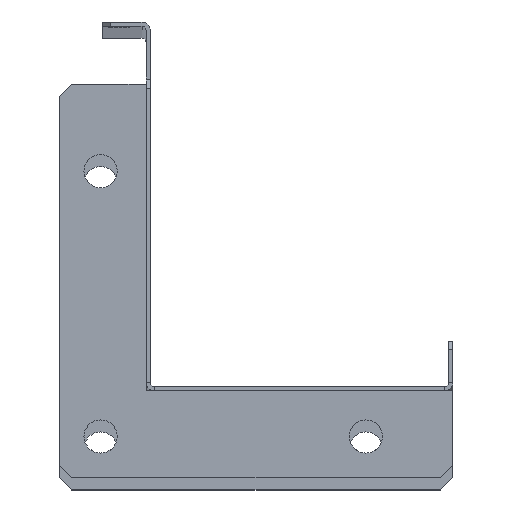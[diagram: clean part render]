
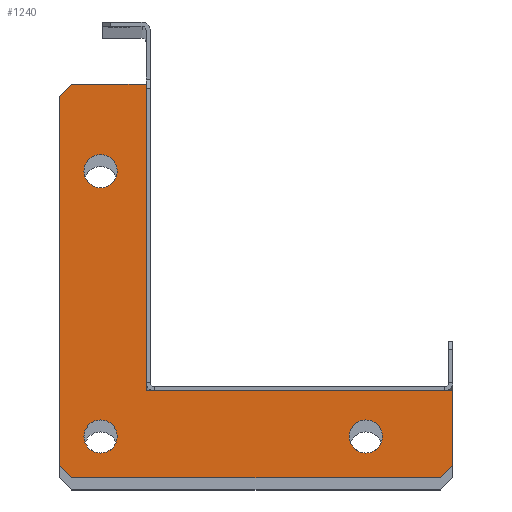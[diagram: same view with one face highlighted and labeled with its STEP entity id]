
A CAD part, top view. The second image highlights one B-rep face of the part: STEP entity #1240.
In plain terms, the highlighted planar face has unit normal (0, 0, 1).
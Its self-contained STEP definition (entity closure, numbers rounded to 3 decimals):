
#2 = LINE ( 'NONE', #2248, #508 ) ;
#16 = CARTESIAN_POINT ( 'NONE',  ( 0., 74., 835. ) ) ;
#29 = CARTESIAN_POINT ( 'NONE',  ( 53., -11., 835. ) ) ;
#69 = VERTEX_POINT ( 'NONE', #2380 ) ;
#70 = CARTESIAN_POINT ( 'NONE',  ( -18., 74., 835. ) ) ;
#73 = DIRECTION ( 'NONE',  ( 0., -1., 0. ) ) ;
#80 = DIRECTION ( 'NONE',  ( 1., 0., 0. ) ) ;
#85 = VERTEX_POINT ( 'NONE', #2209 ) ;
#173 = EDGE_CURVE ( 'NONE', #1931, #1002, #2, .T. ) ;
#181 = VERTEX_POINT ( 'NONE', #2038 ) ;
#216 = EDGE_CURVE ( 'NONE', #1070, #886, #1135, .T. ) ;
#217 = ORIENTED_EDGE ( 'NONE', *, *, #216, .T. ) ;
#223 = CARTESIAN_POINT ( 'NONE',  ( -21., -18., 835. ) ) ;
#225 = CARTESIAN_POINT ( 'NONE',  ( -11., 53., 835. ) ) ;
#280 = CARTESIAN_POINT ( 'NONE',  ( -21., 71., 835. ) ) ;
#312 = LINE ( 'NONE', #2146, #532 ) ;
#333 = PLANE ( 'NONE',  #993 ) ;
#354 = DIRECTION ( 'NONE',  ( 0., 0., 1. ) ) ;
#403 = DIRECTION ( 'NONE',  ( 1., 0., 0. ) ) ;
#410 = CARTESIAN_POINT ( 'NONE',  ( -15., 53., 835. ) ) ;
#419 = EDGE_LOOP ( 'NONE', ( #2095, #844 ) ) ;
#420 = LINE ( 'NONE', #280, #899 ) ;
#436 = DIRECTION ( 'NONE',  ( 0., 0., 1. ) ) ;
#441 = ORIENTED_EDGE ( 'NONE', *, *, #173, .T. ) ;
#464 = EDGE_CURVE ( 'NONE', #1031, #181, #719, .T. ) ;
#508 = VECTOR ( 'NONE', #2224, 1000. ) ;
#520 = CARTESIAN_POINT ( 'NONE',  ( 57., -11., 835. ) ) ;
#532 = VECTOR ( 'NONE', #1778, 1000. ) ;
#553 = DIRECTION ( 'NONE',  ( 0., 0., 1. ) ) ;
#555 = CARTESIAN_POINT ( 'NONE',  ( 74., -18., 835. ) ) ;
#562 = EDGE_LOOP ( 'NONE', ( #1945, #1851 ) ) ;
#580 = DIRECTION ( 'NONE',  ( 0., 1., 0. ) ) ;
#587 = CIRCLE ( 'NONE', #1936, 4. ) ;
#593 = CARTESIAN_POINT ( 'NONE',  ( -18., 74., 835. ) ) ;
#615 = ORIENTED_EDGE ( 'NONE', *, *, #1713, .T. ) ;
#620 = CARTESIAN_POINT ( 'NONE',  ( -21., 71., 835. ) ) ;
#683 = EDGE_CURVE ( 'NONE', #2296, #2087, #943, .T. ) ;
#695 = VECTOR ( 'NONE', #1479, 1000. ) ;
#718 = ORIENTED_EDGE ( 'NONE', *, *, #1099, .T. ) ;
#719 = LINE ( 'NONE', #2229, #2257 ) ;
#727 = CARTESIAN_POINT ( 'NONE',  ( -18., -21., 835. ) ) ;
#746 = LINE ( 'NONE', #555, #1787 ) ;
#754 = VERTEX_POINT ( 'NONE', #2372 ) ;
#838 = CARTESIAN_POINT ( 'NONE',  ( -21., -18., 835. ) ) ;
#839 = DIRECTION ( 'NONE',  ( 0., 0., 1. ) ) ;
#844 = ORIENTED_EDGE ( 'NONE', *, *, #1915, .F. ) ;
#886 = VERTEX_POINT ( 'NONE', #727 ) ;
#892 = ORIENTED_EDGE ( 'NONE', *, *, #2115, .T. ) ;
#894 = EDGE_CURVE ( 'NONE', #2087, #2296, #916, .T. ) ;
#899 = VECTOR ( 'NONE', #73, 1000. ) ;
#916 = CIRCLE ( 'NONE', #2153, 4. ) ;
#936 = DIRECTION ( 'NONE',  ( -1., 0., 0. ) ) ;
#943 = CIRCLE ( 'NONE', #2184, 4. ) ;
#944 = DIRECTION ( 'NONE',  ( 0., 0., 1. ) ) ;
#957 = DIRECTION ( 'NONE',  ( 0., 0., 1. ) ) ;
#993 = AXIS2_PLACEMENT_3D ( 'NONE', #1733, #436, #1359 ) ;
#994 = EDGE_CURVE ( 'NONE', #1914, #2231, #1104, .T. ) ;
#1002 = VERTEX_POINT ( 'NONE', #70 ) ;
#1020 = ORIENTED_EDGE ( 'NONE', *, *, #1724, .T. ) ;
#1031 = VERTEX_POINT ( 'NONE', #2298 ) ;
#1035 = VECTOR ( 'NONE', #80, 1000. ) ;
#1070 = VERTEX_POINT ( 'NONE', #838 ) ;
#1072 = AXIS2_PLACEMENT_3D ( 'NONE', #2035, #553, #1331 ) ;
#1090 = DIRECTION ( 'NONE',  ( 0., 0., 1. ) ) ;
#1099 = EDGE_CURVE ( 'NONE', #886, #754, #1196, .T. ) ;
#1104 = CIRCLE ( 'NONE', #2110, 4. ) ;
#1135 = LINE ( 'NONE', #223, #695 ) ;
#1136 = EDGE_CURVE ( 'NONE', #181, #1931, #312, .T. ) ;
#1137 = CARTESIAN_POINT ( 'NONE',  ( -11., -11., 835. ) ) ;
#1171 = ORIENTED_EDGE ( 'NONE', *, *, #2160, .T. ) ;
#1196 = LINE ( 'NONE', #2104, #1035 ) ;
#1198 = EDGE_LOOP ( 'NONE', ( #1799, #441, #1171, #615, #217, #718, #1020, #892, #1727 ) ) ;
#1240 = ADVANCED_FACE ( 'NONE', ( #1244, #1611, #2349, #1983 ), #333, .T. ) ;
#1244 = FACE_BOUND ( 'NONE', #1982, .T. ) ;
#1252 = VERTEX_POINT ( 'NONE', #620 ) ;
#1267 = DIRECTION ( 'NONE',  ( 1., 0., 0. ) ) ;
#1284 = LINE ( 'NONE', #593, #1356 ) ;
#1331 = DIRECTION ( 'NONE',  ( 1., 0., 0. ) ) ;
#1356 = VECTOR ( 'NONE', #2074, 1000. ) ;
#1359 = DIRECTION ( 'NONE',  ( 1., 0., 0. ) ) ;
#1395 = DIRECTION ( 'NONE',  ( 1., 0., 0. ) ) ;
#1431 = CIRCLE ( 'NONE', #2361, 4. ) ;
#1479 = DIRECTION ( 'NONE',  ( 0.707, -0.707, 0. ) ) ;
#1527 = LINE ( 'NONE', #2289, #1857 ) ;
#1580 = DIRECTION ( 'NONE',  ( 0.707, 0.707, 0. ) ) ;
#1585 = EDGE_CURVE ( 'NONE', #2231, #1914, #2112, .T. ) ;
#1593 = ORIENTED_EDGE ( 'NONE', *, *, #894, .F. ) ;
#1611 = FACE_BOUND ( 'NONE', #562, .T. ) ;
#1702 = DIRECTION ( 'NONE',  ( 1., 0., 0. ) ) ;
#1713 = EDGE_CURVE ( 'NONE', #1252, #1070, #420, .T. ) ;
#1724 = EDGE_CURVE ( 'NONE', #754, #85, #1527, .T. ) ;
#1727 = ORIENTED_EDGE ( 'NONE', *, *, #464, .T. ) ;
#1733 = CARTESIAN_POINT ( 'NONE',  ( 0., 0., 835. ) ) ;
#1778 = DIRECTION ( 'NONE',  ( 0., 1., 0. ) ) ;
#1787 = VECTOR ( 'NONE', #580, 1000. ) ;
#1799 = ORIENTED_EDGE ( 'NONE', *, *, #1136, .T. ) ;
#1842 = CARTESIAN_POINT ( 'NONE',  ( -15., -11., 835. ) ) ;
#1851 = ORIENTED_EDGE ( 'NONE', *, *, #1585, .F. ) ;
#1857 = VECTOR ( 'NONE', #1580, 1000. ) ;
#1882 = CARTESIAN_POINT ( 'NONE',  ( -7., 53., 835. ) ) ;
#1912 = VERTEX_POINT ( 'NONE', #520 ) ;
#1914 = VERTEX_POINT ( 'NONE', #2213 ) ;
#1915 = EDGE_CURVE ( 'NONE', #69, #1912, #1431, .T. ) ;
#1931 = VERTEX_POINT ( 'NONE', #16 ) ;
#1936 = AXIS2_PLACEMENT_3D ( 'NONE', #2227, #1090, #403 ) ;
#1945 = ORIENTED_EDGE ( 'NONE', *, *, #994, .F. ) ;
#1949 = EDGE_CURVE ( 'NONE', #1912, #69, #587, .T. ) ;
#1982 = EDGE_LOOP ( 'NONE', ( #1593, #2261 ) ) ;
#1983 = FACE_OUTER_BOUND ( 'NONE', #1198, .T. ) ;
#2035 = CARTESIAN_POINT ( 'NONE',  ( -11., -11., 835. ) ) ;
#2038 = CARTESIAN_POINT ( 'NONE',  ( 0., 0., 835. ) ) ;
#2074 = DIRECTION ( 'NONE',  ( -0.707, -0.707, 0. ) ) ;
#2087 = VERTEX_POINT ( 'NONE', #1882 ) ;
#2095 = ORIENTED_EDGE ( 'NONE', *, *, #1949, .F. ) ;
#2104 = CARTESIAN_POINT ( 'NONE',  ( -18., -21., 835. ) ) ;
#2110 = AXIS2_PLACEMENT_3D ( 'NONE', #1137, #944, #1702 ) ;
#2112 = CIRCLE ( 'NONE', #1072, 4. ) ;
#2115 = EDGE_CURVE ( 'NONE', #85, #1031, #746, .T. ) ;
#2146 = CARTESIAN_POINT ( 'NONE',  ( 0., 74., 835. ) ) ;
#2153 = AXIS2_PLACEMENT_3D ( 'NONE', #225, #957, #2263 ) ;
#2160 = EDGE_CURVE ( 'NONE', #1002, #1252, #1284, .T. ) ;
#2184 = AXIS2_PLACEMENT_3D ( 'NONE', #2300, #839, #1395 ) ;
#2209 = CARTESIAN_POINT ( 'NONE',  ( 74., -18., 835. ) ) ;
#2213 = CARTESIAN_POINT ( 'NONE',  ( -7., -11., 835. ) ) ;
#2224 = DIRECTION ( 'NONE',  ( -1., 0., 0. ) ) ;
#2227 = CARTESIAN_POINT ( 'NONE',  ( 53., -11., 835. ) ) ;
#2229 = CARTESIAN_POINT ( 'NONE',  ( 0., 0., 835. ) ) ;
#2231 = VERTEX_POINT ( 'NONE', #1842 ) ;
#2248 = CARTESIAN_POINT ( 'NONE',  ( 0., 74., 835. ) ) ;
#2257 = VECTOR ( 'NONE', #936, 1000. ) ;
#2261 = ORIENTED_EDGE ( 'NONE', *, *, #683, .F. ) ;
#2263 = DIRECTION ( 'NONE',  ( 1., 0., 0. ) ) ;
#2289 = CARTESIAN_POINT ( 'NONE',  ( 71., -21., 835. ) ) ;
#2296 = VERTEX_POINT ( 'NONE', #410 ) ;
#2298 = CARTESIAN_POINT ( 'NONE',  ( 74., 0., 835. ) ) ;
#2300 = CARTESIAN_POINT ( 'NONE',  ( -11., 53., 835. ) ) ;
#2349 = FACE_BOUND ( 'NONE', #419, .T. ) ;
#2361 = AXIS2_PLACEMENT_3D ( 'NONE', #29, #354, #1267 ) ;
#2372 = CARTESIAN_POINT ( 'NONE',  ( 71., -21., 835. ) ) ;
#2380 = CARTESIAN_POINT ( 'NONE',  ( 49., -11., 835. ) ) ;
